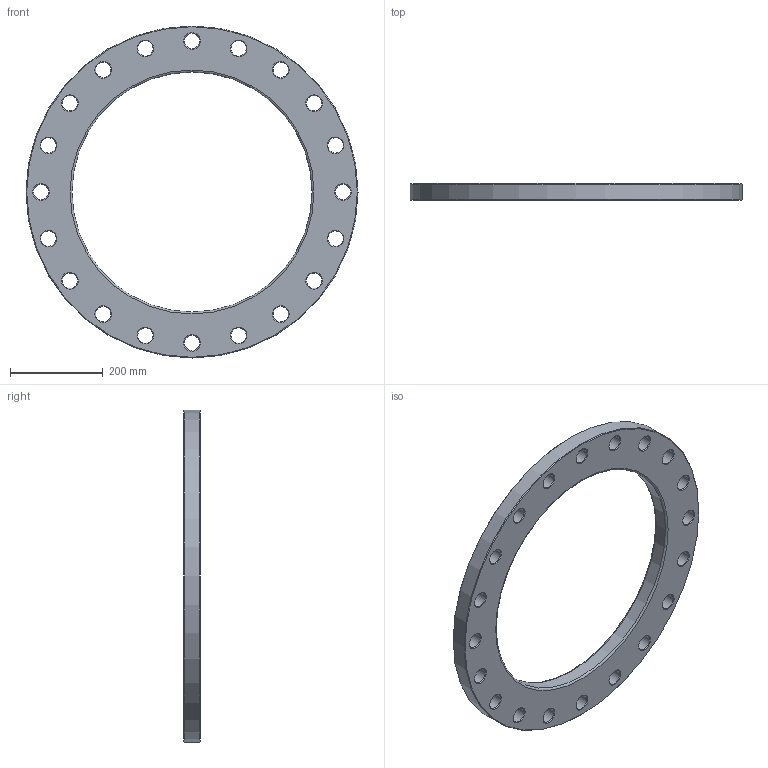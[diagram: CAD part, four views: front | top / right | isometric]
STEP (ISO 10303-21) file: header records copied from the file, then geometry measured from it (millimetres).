
FILE_DESCRIPTION(/* description */ ('Unknown'),/* implementation_level */ '2;1');
FILE_NAME(/* name */ 'FZ450C',/* time_stamp */ '2021-03-15T12:20:47+01:00',/* author */ ('Unknown'),/* organization */ ('Unknown'),/* preprocessor_version */ 'ST-DEVELOPER v16.7',/* originating_system */ 'Solid Edge',/* authorisation */ 'Unknown');
FILE_SCHEMA (('AUTOMOTIVE_DESIGN {1 0 10303 214 3 1 1}'));
Length unit declared in the file: millimetre
Products named in the file (1): FZ450C
Bounding box: 715 x 36 x 715 mm (x, y, z)
Volume: 6260266.9 mm3; surface area: 549899.3 mm2
Topology: 1 solids, 1 shells, 68 faces, 214 edges, 148 vertices
Faces by surface type: cone 42, cylinder 22, plane 2, torus 2
Full cylindrical faces by diameter (mm): 33 x20, 517 x1, 715 x1
Entity records: 1678 total; most frequent: DIRECTION 314, CARTESIAN_POINT 245, ORIENTED_EDGE 176, EDGE_LOOP 176, FACE_BOUND 176, AXIS2_PLACEMENT_3D 157, EDGE_CURVE 88, VERTEX_POINT 88
